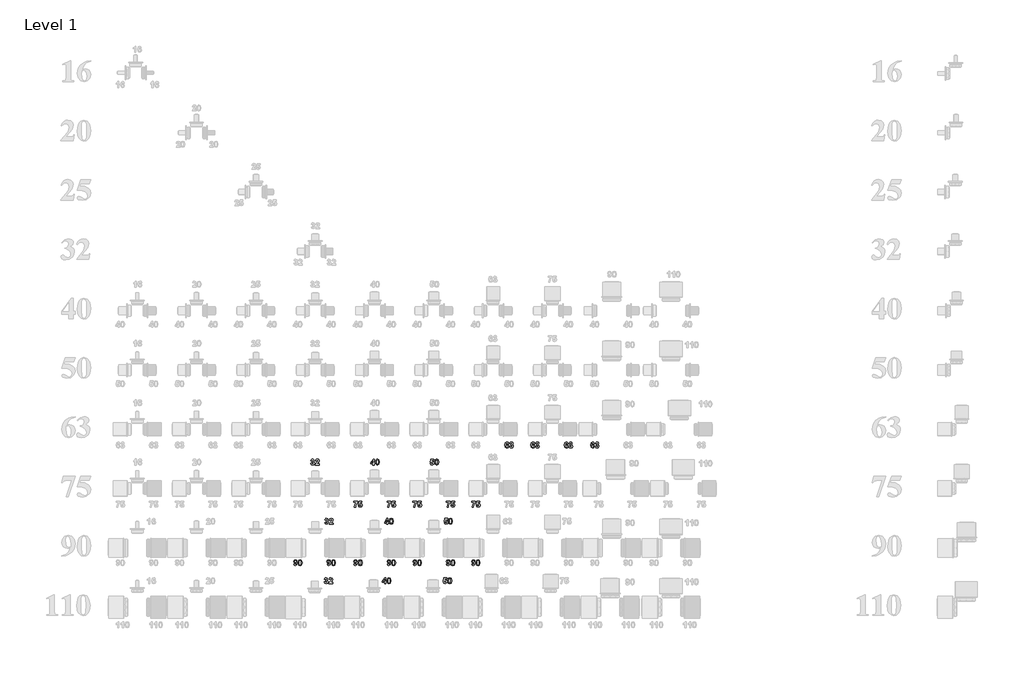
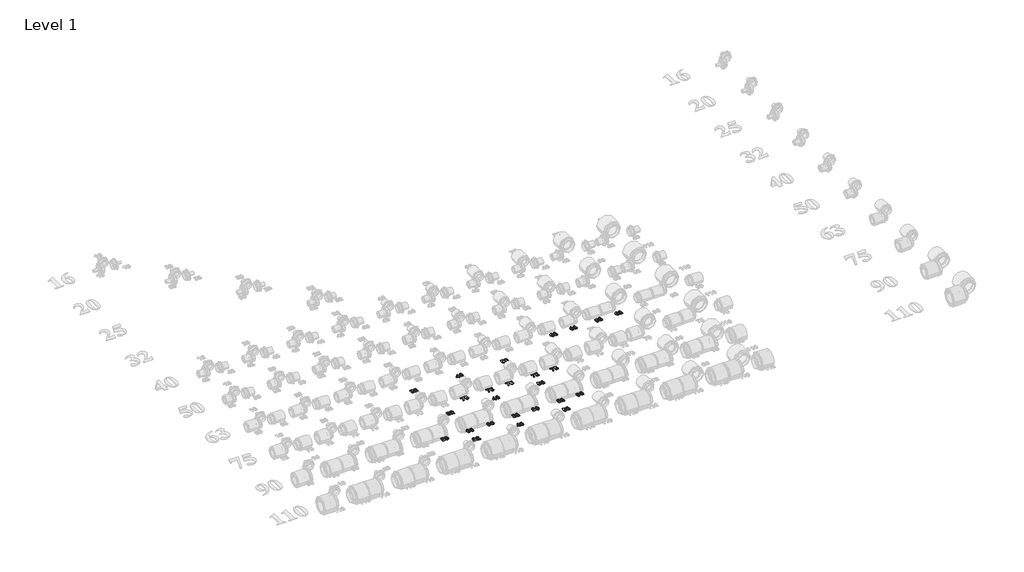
# One storey, part 22 of 57: 25 proxies.
"""IFC4 building model written with IfcOpenShell, lengths in millimetres."""

from ifc_helpers import new_model, si_unit, frame, origin, place, context, project, spatial, polyline, outline, extrude, element, save

model = new_model("IFC4")

# Units and contexts
model_context = context("Model", 3, world=origin())
ifc_project = project(units=[si_unit("LENGTHUNIT", "METRE", prefix="MILLI")], contexts=[model_context])

# Site, building, storey
site = spatial("IfcSite", under=ifc_project)
building = spatial("IfcBuilding", under=site)
storey = spatial("IfcBuildingStorey", under=building, Name="Level 1", Elevation=27.3876384)

# Proxies
placement = place(None, origin())
element("IfcBuildingElementProxy", 1, Name="30mm Arial", ObjectType="30mm Arial", at=placement, inside=storey, context=model_context, shape_type="SweptSolid", body=[
    extrude(outline(polyline([(15144.2929, 16775.0640351), (15138.4628463, 16774.4415554), (15137.430441, 16777.0111819), (15135.2593532, 16777.84242), (15132.2684142, 16776.2292867), (15130.7273974, 16769.4541266), (15136.0564309, 16772.0123663), (15142.2167025, 16769.2795286), (15144.7787378, 16762.2272892), (15142.1597684, 16754.8676055), (15135.42636, 16752.0930161), (15128.1843401, 16755.67607), (15125.3452254, 16767.4196808), (15128.3095952, 16779.4897138), (15136.0108836, 16783.1866359), (15141.514515, 16781.1066428), (15144.2929, 16775.0640351)]), holes=[polyline([(15131.1752792, 16762.3563398), (15132.435421, 16758.7163519), (15135.3124918, 16757.437232), (15137.9086876, 16758.4848198), (15138.9486841, 16761.9236405), (15137.8289798, 16765.5256724), (15135.0316168, 16766.6681504), (15132.2949835, 16765.5750153), (15131.1752792, 16762.3563398)])]), frame((0.0, 0.0, 27.3876384), z_axis=(0.0, 0.0, 1.0), x_axis=(1.0, 0.0, 0.0)), (0.0, 0.0, 1.0), 2.0),
    extrude(outline(polyline([(15148.6654403, 16761.1341541), (15154.495494, 16761.8097723), (15155.8087743, 16758.560732), (15158.3973789, 16757.437232), (15161.1529903, 16758.7239431), (15162.268899, 16762.1893331), (15161.2478804, 16765.4611471), (15158.7541661, 16766.6681504), (15156.4388453, 16766.2354511), (15156.9474567, 16771.0406907), (15159.8207319, 16771.9971839), (15160.8113855, 16774.6996567), (15160.071242, 16776.9884083), (15158.1013215, 16777.84242), (15156.025124, 16776.8517664), (15154.9813318, 16773.9557175), (15149.1512781, 16774.8287074), (15150.7568202, 16779.4631446), (15153.7553505, 16782.1921867), (15158.0633654, 16783.1866359), (15164.6069934, 16780.4310246), (15166.6414393, 16775.3297276), (15162.2764902, 16768.8999678), (15166.5123886, 16766.3986622), (15168.0989527, 16761.7034953), (15165.2864072, 16754.9055616), (15158.2835107, 16752.0930161), (15151.698131, 16754.5943217), (15148.6654403, 16761.1341541)])), frame((0.0, 0.0, 27.3876384), z_axis=(0.0, 0.0, 1.0), x_axis=(1.0, 0.0, 0.0)), (0.0, 0.0, 1.0), 2.0),
])
element("IfcBuildingElementProxy", 2, Name="30mm Arial", ObjectType="30mm Arial", at=placement, inside=storey, context=model_context, shape_type="SweptSolid", body=[
    extrude(outline(polyline([(15275.5429, 16775.0640351), (15269.7128463, 16774.4415554), (15268.680441, 16777.0111819), (15266.5093532, 16777.84242), (15263.5184142, 16776.2292867), (15261.9773974, 16769.4541266), (15267.3064309, 16772.0123663), (15273.4667025, 16769.2795286), (15276.0287378, 16762.2272892), (15273.4097684, 16754.8676055), (15266.67636, 16752.0930161), (15259.4343401, 16755.67607), (15256.5952254, 16767.4196808), (15259.5595952, 16779.4897138), (15267.2608836, 16783.1866359), (15272.764515, 16781.1066428), (15275.5429, 16775.0640351)]), holes=[polyline([(15262.4252792, 16762.3563398), (15263.685421, 16758.7163519), (15266.5624918, 16757.437232), (15269.1586876, 16758.4848198), (15270.1986841, 16761.9236405), (15269.0789798, 16765.5256724), (15266.2816168, 16766.6681504), (15263.5449835, 16765.5750153), (15262.4252792, 16762.3563398)])]), frame((0.0, 0.0, 27.3876384), z_axis=(0.0, 0.0, 1.0), x_axis=(1.0, 0.0, 0.0)), (0.0, 0.0, 1.0), 2.0),
    extrude(outline(polyline([(15279.9154403, 16761.1341541), (15285.745494, 16761.8097723), (15287.0587743, 16758.560732), (15289.6473789, 16757.437232), (15292.4029903, 16758.7239431), (15293.518899, 16762.1893331), (15292.4978804, 16765.4611471), (15290.0041661, 16766.6681504), (15287.6888453, 16766.2354511), (15288.1974567, 16771.0406907), (15291.0707319, 16771.9971839), (15292.0613855, 16774.6996567), (15291.321242, 16776.9884083), (15289.3513215, 16777.84242), (15287.275124, 16776.8517664), (15286.2313318, 16773.9557175), (15280.4012781, 16774.8287074), (15282.0068202, 16779.4631446), (15285.0053505, 16782.1921867), (15289.3133654, 16783.1866359), (15295.8569934, 16780.4310246), (15297.8914393, 16775.3297276), (15293.5264902, 16768.8999678), (15297.7623886, 16766.3986622), (15299.3489527, 16761.7034953), (15296.5364072, 16754.9055616), (15289.5335107, 16752.0930161), (15282.948131, 16754.5943217), (15279.9154403, 16761.1341541)])), frame((0.0, 0.0, 27.3876384), z_axis=(0.0, 0.0, 1.0), x_axis=(1.0, 0.0, 0.0)), (0.0, 0.0, 1.0), 2.0),
])
element("IfcBuildingElementProxy", 3, Name="30mm Arial", ObjectType="30mm Arial", at=placement, inside=storey, context=model_context, shape_type="SweptSolid", body=[
    extrude(outline(polyline([(15444.2929, 16775.0640351), (15438.4628463, 16774.4415554), (15437.430441, 16777.0111819), (15435.2593532, 16777.84242), (15432.2684142, 16776.2292867), (15430.7273974, 16769.4541266), (15436.0564309, 16772.0123663), (15442.2167025, 16769.2795286), (15444.7787378, 16762.2272892), (15442.1597684, 16754.8676055), (15435.42636, 16752.0930161), (15428.1843401, 16755.67607), (15425.3452254, 16767.4196808), (15428.3095952, 16779.4897138), (15436.0108836, 16783.1866359), (15441.514515, 16781.1066428), (15444.2929, 16775.0640351)]), holes=[polyline([(15431.1752792, 16762.3563398), (15432.435421, 16758.7163519), (15435.3124918, 16757.437232), (15437.9086876, 16758.4848198), (15438.9486841, 16761.9236405), (15437.8289798, 16765.5256724), (15435.0316168, 16766.6681504), (15432.2949835, 16765.5750153), (15431.1752792, 16762.3563398)])]), frame((0.0, 0.0, 27.3876384), z_axis=(0.0, 0.0, 1.0), x_axis=(1.0, 0.0, 0.0)), (0.0, 0.0, 1.0), 2.0),
    extrude(outline(polyline([(15448.6654403, 16761.1341541), (15454.495494, 16761.8097723), (15455.8087743, 16758.560732), (15458.3973789, 16757.437232), (15461.1529903, 16758.7239431), (15462.268899, 16762.1893331), (15461.2478804, 16765.4611471), (15458.7541661, 16766.6681504), (15456.4388453, 16766.2354511), (15456.9474567, 16771.0406907), (15459.8207319, 16771.9971839), (15460.8113855, 16774.6996567), (15460.071242, 16776.9884083), (15458.1013215, 16777.84242), (15456.025124, 16776.8517664), (15454.9813318, 16773.9557175), (15449.1512781, 16774.8287074), (15450.7568202, 16779.4631446), (15453.7553505, 16782.1921867), (15458.0633654, 16783.1866359), (15464.6069934, 16780.4310246), (15466.6414393, 16775.3297276), (15462.2764902, 16768.8999678), (15466.5123886, 16766.3986622), (15468.0989527, 16761.7034953), (15465.2864072, 16754.9055616), (15458.2835107, 16752.0930161), (15451.698131, 16754.5943217), (15448.6654403, 16761.1341541)])), frame((0.0, 0.0, 27.3876384), z_axis=(0.0, 0.0, 1.0), x_axis=(1.0, 0.0, 0.0)), (0.0, 0.0, 1.0), 2.0),
])
element("IfcBuildingElementProxy", 4, Name="30mm Arial", ObjectType="30mm Arial", at=placement, inside=storey, context=model_context, shape_type="SweptSolid", body=[
    extrude(outline(polyline([(15577.5429, 16775.0640351), (15571.7128463, 16774.4415554), (15570.680441, 16777.0111819), (15568.5093532, 16777.84242), (15565.5184142, 16776.2292867), (15563.9773974, 16769.4541266), (15569.3064309, 16772.0123663), (15575.4667025, 16769.2795286), (15578.0287378, 16762.2272892), (15575.4097684, 16754.8676055), (15568.67636, 16752.0930161), (15561.4343401, 16755.67607), (15558.5952254, 16767.4196808), (15561.5595952, 16779.4897138), (15569.2608836, 16783.1866359), (15574.764515, 16781.1066428), (15577.5429, 16775.0640351)]), holes=[polyline([(15564.4252792, 16762.3563398), (15565.685421, 16758.7163519), (15568.5624918, 16757.437232), (15571.1586876, 16758.4848198), (15572.1986841, 16761.9236405), (15571.0789798, 16765.5256724), (15568.2816168, 16766.6681504), (15565.5449835, 16765.5750153), (15564.4252792, 16762.3563398)])]), frame((0.0, 0.0, 27.3876384), z_axis=(0.0, 0.0, 1.0), x_axis=(1.0, 0.0, 0.0)), (0.0, 0.0, 1.0), 2.0),
    extrude(outline(polyline([(15581.9154403, 16761.1341541), (15587.745494, 16761.8097723), (15589.0587743, 16758.560732), (15591.6473789, 16757.437232), (15594.4029903, 16758.7239431), (15595.518899, 16762.1893331), (15594.4978804, 16765.4611471), (15592.0041661, 16766.6681504), (15589.6888453, 16766.2354511), (15590.1974567, 16771.0406907), (15593.0707319, 16771.9971839), (15594.0613855, 16774.6996567), (15593.321242, 16776.9884083), (15591.3513215, 16777.84242), (15589.275124, 16776.8517664), (15588.2313318, 16773.9557175), (15582.4012781, 16774.8287074), (15584.0068202, 16779.4631446), (15587.0053505, 16782.1921867), (15591.3133654, 16783.1866359), (15597.8569934, 16780.4310246), (15599.8914393, 16775.3297276), (15595.5264902, 16768.8999678), (15599.7623886, 16766.3986622), (15601.3489527, 16761.7034953), (15598.5364072, 16754.9055616), (15591.5335107, 16752.0930161), (15584.948131, 16754.5943217), (15581.9154403, 16761.1341541)])), frame((0.0, 0.0, 27.3876384), z_axis=(0.0, 0.0, 1.0), x_axis=(1.0, 0.0, 0.0)), (0.0, 0.0, 1.0), 2.0),
])
element("IfcBuildingElementProxy", 5, Name="30mm Arial", ObjectType="30mm Arial", at=placement, inside=storey, context=model_context, shape_type="SweptSolid", body=[
    extrude(outline(polyline([(14143.5234103, 16674.9527947), (14149.353464, 16675.6284129), (14150.6667443, 16672.3793725), (14153.2553489, 16671.2558726), (14156.0109602, 16672.5425837), (14157.1268689, 16676.0079737), (14156.1058504, 16679.2797877), (14153.612136, 16680.486791), (14151.2968152, 16680.0540917), (14151.8054267, 16684.8593313), (14154.6787018, 16685.8158244), (14155.6693555, 16688.5182973), (14154.929212, 16690.8070488), (14152.9592915, 16691.6610606), (14150.8830939, 16690.6704069), (14149.8393018, 16687.7743581), (14144.0092481, 16688.6473479), (14145.6147902, 16693.2817852), (14148.6133204, 16696.0108272), (14152.9213354, 16697.0052765), (14159.4649634, 16694.2496652), (14161.4994092, 16689.1483682), (14157.1344601, 16682.7186084), (14161.3703585, 16680.2173028), (14162.9569226, 16675.5221359), (14160.1443772, 16668.7242021), (14153.1414806, 16665.9116567), (14146.556101, 16668.4129623), (14143.5234103, 16674.9527947)])), frame((0.0, 0.0, 27.3876384), z_axis=(0.0, 0.0, 1.0), x_axis=(1.0, 0.0, 0.0)), (0.0, 0.0, 1.0), 2.0),
    extrude(outline(polyline([(14186.2771375, 16672.2275482), (14186.2771375, 16666.3974945), (14166.8436251, 16666.3974945), (14168.703473, 16672.1174756), (14174.8144017, 16679.2873789), (14179.3235838, 16684.1761218), (14180.4470838, 16687.6832635), (14179.5019774, 16690.6324508), (14176.8943948, 16691.6610606), (14174.2830166, 16690.6476333), (14173.1595166, 16687.2885203), (14167.3294629, 16687.8199054), (14170.4570438, 16694.8683493), (14177.0234455, 16697.0052765), (14183.8099924, 16694.6102479), (14186.2771375, 16688.6549391), (14185.6015193, 16684.7986015), (14183.4607964, 16680.9650376), (14179.8359909, 16677.1390648), (14176.5072428, 16673.8217035), (14175.4141077, 16672.2275482), (14186.2771375, 16672.2275482)])), frame((0.0, 0.0, 27.3876384), z_axis=(0.0, 0.0, 1.0), x_axis=(1.0, 0.0, 0.0)), (0.0, 0.0, 1.0), 2.0),
])
element("IfcBuildingElementProxy", 6, Name="30mm Arial", ObjectType="30mm Arial", at=placement, inside=storey, context=model_context, shape_type="SweptSolid", body=[
    extrude(outline(polyline([(14360.5952254, 16476.8707444), (14360.5952254, 16482.7007981), (14380.0287378, 16482.7007981), (14380.0287378, 16478.3282578), (14375.022331, 16471.3595218), (14371.1394242, 16461.7110865), (14369.8261438, 16452.5788539), (14363.9960901, 16452.5788539), (14366.6568112, 16465.2903447), (14373.3636504, 16476.8707444), (14360.5952254, 16476.8707444)])), frame((0.0, 0.0, 27.3876384), z_axis=(0.0, 0.0, 1.0), x_axis=(1.0, 0.0, 0.0)), (0.0, 0.0, 1.0), 2.0),
    extrude(outline(polyline([(14383.9154403, 16461.1948838), (14389.2596562, 16461.8097723), (14390.7475345, 16458.6138705), (14393.6018316, 16457.437232), (14396.7256169, 16458.685987), (14398.0047368, 16462.4474344), (14396.8167115, 16465.9773498), (14393.7232911, 16467.1539882), (14389.4570278, 16464.7247992), (14384.4012781, 16465.4763295), (14387.8021428, 16482.7007981), (14402.3772771, 16482.7007981), (14402.3772771, 16476.8707444), (14392.5162878, 16476.8707444), (14391.3396493, 16471.3063832), (14395.0973011, 16472.4982041), (14401.2917332, 16469.7387972), (14403.8347905, 16462.5764851), (14401.7168413, 16456.0252659), (14393.6929262, 16452.0930161), (14387.0088607, 16454.5601612), (14383.9154403, 16461.1948838)])), frame((0.0, 0.0, 27.3876384), z_axis=(0.0, 0.0, 1.0), x_axis=(1.0, 0.0, 0.0)), (0.0, 0.0, 1.0), 2.0),
])
element("IfcBuildingElementProxy", 7, Name="30mm Arial", ObjectType="30mm Arial", at=placement, inside=storey, context=model_context, shape_type="SweptSolid", body=[
    extrude(outline(polyline([(14529.3452254, 16476.8707444), (14529.3452254, 16482.7007981), (14548.7787378, 16482.7007981), (14548.7787378, 16478.3282578), (14543.772331, 16471.3595218), (14539.8894242, 16461.7110865), (14538.5761438, 16452.5788539), (14532.7460901, 16452.5788539), (14535.4068112, 16465.2903447), (14542.1136504, 16476.8707444), (14529.3452254, 16476.8707444)])), frame((0.0, 0.0, 27.3876384), z_axis=(0.0, 0.0, 1.0), x_axis=(1.0, 0.0, 0.0)), (0.0, 0.0, 1.0), 2.0),
    extrude(outline(polyline([(14552.6654403, 16461.1948838), (14558.0096562, 16461.8097723), (14559.4975345, 16458.6138705), (14562.3518316, 16457.437232), (14565.4756169, 16458.685987), (14566.7547368, 16462.4474344), (14565.5667115, 16465.9773498), (14562.4732911, 16467.1539882), (14558.2070278, 16464.7247992), (14553.1512781, 16465.4763295), (14556.5521428, 16482.7007981), (14571.1272771, 16482.7007981), (14571.1272771, 16476.8707444), (14561.2662878, 16476.8707444), (14560.0896493, 16471.3063832), (14563.8473011, 16472.4982041), (14570.0417332, 16469.7387972), (14572.5847905, 16462.5764851), (14570.4668413, 16456.0252659), (14562.4429262, 16452.0930161), (14555.7588607, 16454.5601612), (14552.6654403, 16461.1948838)])), frame((0.0, 0.0, 27.3876384), z_axis=(0.0, 0.0, 1.0), x_axis=(1.0, 0.0, 0.0)), (0.0, 0.0, 1.0), 2.0),
])
element("IfcBuildingElementProxy", 8, Name="30mm Arial", ObjectType="30mm Arial", at=placement, inside=storey, context=model_context, shape_type="SweptSolid", body=[
    extrude(outline(polyline([(14458.2118421, 16666.3974945), (14458.2118421, 16672.713386), (14446.5517346, 16672.713386), (14446.5517346, 16677.5489905), (14458.9861461, 16696.5194387), (14464.0418958, 16696.5194387), (14464.0418958, 16677.5717641), (14467.9285983, 16677.5717641), (14467.9285983, 16672.713386), (14464.0418958, 16672.713386), (14464.0418958, 16666.3974945), (14458.2118421, 16666.3974945)]), holes=[polyline([(14458.2118421, 16677.5717641), (14458.2118421, 16687.5162568), (14451.6985789, 16677.5717641), (14458.2118421, 16677.5717641)])]), frame((0.0, 0.0, 27.3876384), z_axis=(0.0, 0.0, 1.0), x_axis=(1.0, 0.0, 0.0)), (0.0, 0.0, 1.0), 2.0),
    extrude(outline(polyline([(14480.5603813, 16697.0052765), (14487.3545194, 16693.8473307), (14490.2771375, 16681.4508754), (14487.339337, 16669.0240552), (14480.5603813, 16665.9116567), (14473.5195287, 16669.3277038), (14470.8436251, 16681.5116051), (14473.7814256, 16693.892878), (14480.5603813, 16697.0052765)]), holes=[polyline([(14480.5603813, 16691.6610606), (14478.6170301, 16691.0196029), (14477.2961585, 16688.7156689), (14476.6736788, 16681.4508754), (14477.2278376, 16674.4327964), (14478.6284169, 16671.8897391), (14480.5603813, 16671.2558726), (14482.5037325, 16671.8973303), (14483.8246041, 16674.2012643), (14484.4470838, 16681.4508754), (14483.892925, 16688.4651587), (14482.4923457, 16691.0196029), (14480.5603813, 16691.6610606)])]), frame((0.0, 0.0, 27.3876384), z_axis=(0.0, 0.0, 1.0), x_axis=(1.0, 0.0, 0.0)), (0.0, 0.0, 1.0), 2.0),
])
element("IfcBuildingElementProxy", 9, Name="30mm Arial", ObjectType="30mm Arial", at=placement, inside=storey, context=model_context, shape_type="SweptSolid", body=[
    extrude(outline(polyline([(14660.5952254, 16476.8707444), (14660.5952254, 16482.7007981), (14680.0287378, 16482.7007981), (14680.0287378, 16478.3282578), (14675.022331, 16471.3595218), (14671.1394242, 16461.7110865), (14669.8261438, 16452.5788539), (14663.9960901, 16452.5788539), (14666.6568112, 16465.2903447), (14673.3636504, 16476.8707444), (14660.5952254, 16476.8707444)])), frame((0.0, 0.0, 27.3876384), z_axis=(0.0, 0.0, 1.0), x_axis=(1.0, 0.0, 0.0)), (0.0, 0.0, 1.0), 2.0),
    extrude(outline(polyline([(14683.9154403, 16461.1948838), (14689.2596562, 16461.8097723), (14690.7475345, 16458.6138705), (14693.6018316, 16457.437232), (14696.7256169, 16458.685987), (14698.0047368, 16462.4474344), (14696.8167115, 16465.9773498), (14693.7232911, 16467.1539882), (14689.4570278, 16464.7247992), (14684.4012781, 16465.4763295), (14687.8021428, 16482.7007981), (14702.3772771, 16482.7007981), (14702.3772771, 16476.8707444), (14692.5162878, 16476.8707444), (14691.3396493, 16471.3063832), (14695.0973011, 16472.4982041), (14701.2917332, 16469.7387972), (14703.8347905, 16462.5764851), (14701.7168413, 16456.0252659), (14693.6929262, 16452.0930161), (14687.0088607, 16454.5601612), (14683.9154403, 16461.1948838)])), frame((0.0, 0.0, 27.3876384), z_axis=(0.0, 0.0, 1.0), x_axis=(1.0, 0.0, 0.0)), (0.0, 0.0, 1.0), 2.0),
])
element("IfcBuildingElementProxy", 10, Name="30mm Arial", ObjectType="30mm Arial", at=placement, inside=storey, context=model_context, shape_type="SweptSolid", body=[
    extrude(outline(polyline([(14829.3452254, 16476.8707444), (14829.3452254, 16482.7007981), (14848.7787378, 16482.7007981), (14848.7787378, 16478.3282578), (14843.772331, 16471.3595218), (14839.8894242, 16461.7110865), (14838.5761438, 16452.5788539), (14832.7460901, 16452.5788539), (14835.4068112, 16465.2903447), (14842.1136504, 16476.8707444), (14829.3452254, 16476.8707444)])), frame((0.0, 0.0, 27.3876384), z_axis=(0.0, 0.0, 1.0), x_axis=(1.0, 0.0, 0.0)), (0.0, 0.0, 1.0), 2.0),
    extrude(outline(polyline([(14852.6654403, 16461.1948838), (14858.0096562, 16461.8097723), (14859.4975345, 16458.6138705), (14862.3518316, 16457.437232), (14865.4756169, 16458.685987), (14866.7547368, 16462.4474344), (14865.5667115, 16465.9773498), (14862.4732911, 16467.1539882), (14858.2070278, 16464.7247992), (14853.1512781, 16465.4763295), (14856.5521428, 16482.7007981), (14871.1272771, 16482.7007981), (14871.1272771, 16476.8707444), (14861.2662878, 16476.8707444), (14860.0896493, 16471.3063832), (14863.8473011, 16472.4982041), (14870.0417332, 16469.7387972), (14872.5847905, 16462.5764851), (14870.4668413, 16456.0252659), (14862.4429262, 16452.0930161), (14855.7588607, 16454.5601612), (14852.6654403, 16461.1948838)])), frame((0.0, 0.0, 27.3876384), z_axis=(0.0, 0.0, 1.0), x_axis=(1.0, 0.0, 0.0)), (0.0, 0.0, 1.0), 2.0),
])
element("IfcBuildingElementProxy", 11, Name="30mm Arial", ObjectType="30mm Arial", at=placement, inside=storey, context=model_context, shape_type="SweptSolid", body=[
    extrude(outline(polyline([(14747.5234103, 16675.0135244), (14752.8676262, 16675.6284129), (14754.3555044, 16672.432511), (14757.2098016, 16671.2558726), (14760.3335869, 16672.5046276), (14761.6127067, 16676.266075), (14760.4246815, 16679.7959903), (14757.331261, 16680.9726288), (14753.0649978, 16678.5434397), (14748.0092481, 16679.2949701), (14751.4101127, 16696.5194387), (14765.985247, 16696.5194387), (14765.985247, 16690.689385), (14756.1242577, 16690.689385), (14754.9476193, 16685.1250238), (14758.7052711, 16686.3168447), (14764.8997032, 16683.5574377), (14767.4427604, 16676.3951257), (14765.3248112, 16669.8439065), (14757.3008962, 16665.9116567), (14750.6168307, 16668.3788018), (14747.5234103, 16675.0135244)])), frame((0.0, 0.0, 27.3876384), z_axis=(0.0, 0.0, 1.0), x_axis=(1.0, 0.0, 0.0)), (0.0, 0.0, 1.0), 2.0),
    extrude(outline(polyline([(14780.5603813, 16697.0052765), (14787.3545194, 16693.8473307), (14790.2771375, 16681.4508754), (14787.339337, 16669.0240552), (14780.5603813, 16665.9116567), (14773.5195287, 16669.3277038), (14770.8436251, 16681.5116051), (14773.7814256, 16693.892878), (14780.5603813, 16697.0052765)]), holes=[polyline([(14780.5603813, 16691.6610606), (14778.6170301, 16691.0196029), (14777.2961585, 16688.7156689), (14776.6736788, 16681.4508754), (14777.2278376, 16674.4327964), (14778.6284169, 16671.8897391), (14780.5603813, 16671.2558726), (14782.5037325, 16671.8973303), (14783.8246041, 16674.2012643), (14784.4470838, 16681.4508754), (14783.892925, 16688.4651587), (14782.4923457, 16691.0196029), (14780.5603813, 16691.6610606)])]), frame((0.0, 0.0, 27.3876384), z_axis=(0.0, 0.0, 1.0), x_axis=(1.0, 0.0, 0.0)), (0.0, 0.0, 1.0), 2.0),
])
element("IfcBuildingElementProxy", 12, Name="30mm Arial", ObjectType="30mm Arial", at=placement, inside=storey, context=model_context, shape_type="SweptSolid", body=[
    extrude(outline(polyline([(14956.5952254, 16476.8707444), (14956.5952254, 16482.7007981), (14976.0287378, 16482.7007981), (14976.0287378, 16478.3282578), (14971.022331, 16471.3595218), (14967.1394242, 16461.7110865), (14965.8261438, 16452.5788539), (14959.9960901, 16452.5788539), (14962.6568112, 16465.2903447), (14969.3636504, 16476.8707444), (14956.5952254, 16476.8707444)])), frame((0.0, 0.0, 27.3876384), z_axis=(0.0, 0.0, 1.0), x_axis=(1.0, 0.0, 0.0)), (0.0, 0.0, 1.0), 2.0),
    extrude(outline(polyline([(14979.9154403, 16461.1948838), (14985.2596562, 16461.8097723), (14986.7475345, 16458.6138705), (14989.6018316, 16457.437232), (14992.7256169, 16458.685987), (14994.0047368, 16462.4474344), (14992.8167115, 16465.9773498), (14989.7232911, 16467.1539882), (14985.4570278, 16464.7247992), (14980.4012781, 16465.4763295), (14983.8021428, 16482.7007981), (14998.3772771, 16482.7007981), (14998.3772771, 16476.8707444), (14988.5162878, 16476.8707444), (14987.3396493, 16471.3063832), (14991.0973011, 16472.4982041), (14997.2917332, 16469.7387972), (14999.8347905, 16462.5764851), (14997.7168413, 16456.0252659), (14989.6929262, 16452.0930161), (14983.0088607, 16454.5601612), (14979.9154403, 16461.1948838)])), frame((0.0, 0.0, 27.3876384), z_axis=(0.0, 0.0, 1.0), x_axis=(1.0, 0.0, 0.0)), (0.0, 0.0, 1.0), 2.0),
])
element("IfcBuildingElementProxy", 13, Name="30mm Arial", ObjectType="30mm Arial", at=placement, inside=storey, context=model_context, shape_type="SweptSolid", body=[
    extrude(outline(polyline([(14057.0810633, 16165.215617), (14062.911117, 16165.8380967), (14063.9473179, 16163.2722658), (14066.1601573, 16162.437232), (14069.105549, 16164.0503654), (14070.6617483, 16170.8027518), (14065.2492114, 16168.2672857), (14059.1572608, 16170.9887366), (14056.5952254, 16178.0751365), (14059.2255817, 16185.4044553), (14065.9248296, 16188.1866359), (14073.1896231, 16184.6073777), (14076.0287378, 16172.8296064), (14073.0605725, 16160.7861426), (14065.3327148, 16157.0930161), (14059.7911273, 16159.1274619), (14057.0810633, 16165.215617)]), holes=[polyline([(14070.1986841, 16177.9384946), (14068.9461335, 16181.555709), (14066.0538803, 16182.84242), (14063.4576845, 16181.787241), (14062.4252792, 16178.3332379), (14063.5487791, 16174.7539796), (14066.3499377, 16173.6115016), (14069.086571, 16174.7084323), (14070.1986841, 16177.9384946)])]), frame((0.0, 0.0, 27.3876384), z_axis=(0.0, 0.0, 1.0), x_axis=(1.0, 0.0, 0.0)), (0.0, 0.0, 1.0), 2.0),
    extrude(outline(polyline([(14089.6321965, 16188.1866359), (14096.4263346, 16185.0286902), (14099.3489527, 16172.6322348), (14096.4111522, 16160.2054146), (14089.6321965, 16157.0930161), (14082.5913439, 16160.5090632), (14079.9154403, 16172.6929645), (14082.8532408, 16185.0742375), (14089.6321965, 16188.1866359)]), holes=[polyline([(14089.6321965, 16182.84242), (14087.6888453, 16182.2009623), (14086.3679737, 16179.8970283), (14085.745494, 16172.6322348), (14086.2996528, 16165.6141558), (14087.7002321, 16163.0710985), (14089.6321965, 16162.437232), (14091.5755477, 16163.0786898), (14092.8964193, 16165.3826237), (14093.518899, 16172.6322348), (14092.9647402, 16179.6465182), (14091.5641609, 16182.2009623), (14089.6321965, 16182.84242)])]), frame((0.0, 0.0, 27.3876384), z_axis=(0.0, 0.0, 1.0), x_axis=(1.0, 0.0, 0.0)), (0.0, 0.0, 1.0), 2.0),
])
element("IfcBuildingElementProxy", 14, Name="30mm Arial", ObjectType="30mm Arial", at=placement, inside=storey, context=model_context, shape_type="SweptSolid", body=[
    extrude(outline(polyline([(14225.8310633, 16165.215617), (14231.661117, 16165.8380967), (14232.6973179, 16163.2722658), (14234.9101573, 16162.437232), (14237.855549, 16164.0503654), (14239.4117483, 16170.8027518), (14233.9992114, 16168.2672857), (14227.9072608, 16170.9887366), (14225.3452254, 16178.0751365), (14227.9755817, 16185.4044553), (14234.6748296, 16188.1866359), (14241.9396231, 16184.6073777), (14244.7787378, 16172.8296064), (14241.8105725, 16160.7861426), (14234.0827148, 16157.0930161), (14228.5411273, 16159.1274619), (14225.8310633, 16165.215617)]), holes=[polyline([(14238.9486841, 16177.9384946), (14237.6961335, 16181.555709), (14234.8038803, 16182.84242), (14232.2076845, 16181.787241), (14231.1752792, 16178.3332379), (14232.2987791, 16174.7539796), (14235.0999377, 16173.6115016), (14237.836571, 16174.7084323), (14238.9486841, 16177.9384946)])]), frame((0.0, 0.0, 27.3876384), z_axis=(0.0, 0.0, 1.0), x_axis=(1.0, 0.0, 0.0)), (0.0, 0.0, 1.0), 2.0),
    extrude(outline(polyline([(14258.3821965, 16188.1866359), (14265.1763346, 16185.0286902), (14268.0989527, 16172.6322348), (14265.1611522, 16160.2054146), (14258.3821965, 16157.0930161), (14251.3413439, 16160.5090632), (14248.6654403, 16172.6929645), (14251.6032408, 16185.0742375), (14258.3821965, 16188.1866359)]), holes=[polyline([(14258.3821965, 16182.84242), (14256.4388453, 16182.2009623), (14255.1179737, 16179.8970283), (14254.495494, 16172.6322348), (14255.0496528, 16165.6141558), (14256.4502321, 16163.0710985), (14258.3821965, 16162.437232), (14260.3255477, 16163.0786898), (14261.6464193, 16165.3826237), (14262.268899, 16172.6322348), (14261.7147402, 16179.6465182), (14260.3141609, 16182.2009623), (14258.3821965, 16182.84242)])]), frame((0.0, 0.0, 27.3876384), z_axis=(0.0, 0.0, 1.0), x_axis=(1.0, 0.0, 0.0)), (0.0, 0.0, 1.0), 2.0),
])
element("IfcBuildingElementProxy", 15, Name="30mm Arial", ObjectType="30mm Arial", at=placement, inside=storey, context=model_context, shape_type="SweptSolid", body=[
    extrude(outline(polyline([(14213.5234103, 16374.9527947), (14219.353464, 16375.6284129), (14220.6667443, 16372.3793725), (14223.2553489, 16371.2558726), (14226.0109602, 16372.5425837), (14227.1268689, 16376.0079737), (14226.1058504, 16379.2797877), (14223.612136, 16380.486791), (14221.2968152, 16380.0540917), (14221.8054267, 16384.8593313), (14224.6787018, 16385.8158244), (14225.6693555, 16388.5182973), (14224.929212, 16390.8070488), (14222.9592915, 16391.6610606), (14220.8830939, 16390.6704069), (14219.8393018, 16387.7743581), (14214.0092481, 16388.6473479), (14215.6147902, 16393.2817852), (14218.6133204, 16396.0108272), (14222.9213354, 16397.0052765), (14229.4649634, 16394.2496652), (14231.4994092, 16389.1483682), (14227.1344601, 16382.7186084), (14231.3703585, 16380.2173028), (14232.9569226, 16375.5221359), (14230.1443772, 16368.7242021), (14223.1414806, 16365.9116567), (14216.556101, 16368.4129623), (14213.5234103, 16374.9527947)])), frame((0.0, 0.0, 27.3876384), z_axis=(0.0, 0.0, 1.0), x_axis=(1.0, 0.0, 0.0)), (0.0, 0.0, 1.0), 2.0),
    extrude(outline(polyline([(14256.2771375, 16372.2275482), (14256.2771375, 16366.3974945), (14236.8436251, 16366.3974945), (14238.703473, 16372.1174756), (14244.8144017, 16379.2873789), (14249.3235838, 16384.1761218), (14250.4470838, 16387.6832635), (14249.5019774, 16390.6324508), (14246.8943948, 16391.6610606), (14244.2830166, 16390.6476333), (14243.1595166, 16387.2885203), (14237.3294629, 16387.8199054), (14240.4570438, 16394.8683493), (14247.0234455, 16397.0052765), (14253.8099924, 16394.6102479), (14256.2771375, 16388.6549391), (14255.6015193, 16384.7986015), (14253.4607964, 16380.9650376), (14249.8359909, 16377.1390648), (14246.5072428, 16373.8217035), (14245.4141077, 16372.2275482), (14256.2771375, 16372.2275482)])), frame((0.0, 0.0, 27.3876384), z_axis=(0.0, 0.0, 1.0), x_axis=(1.0, 0.0, 0.0)), (0.0, 0.0, 1.0), 2.0),
])
element("IfcBuildingElementProxy", 16, Name="30mm Arial", ObjectType="30mm Arial", at=placement, inside=storey, context=model_context, shape_type="SweptSolid", body=[
    extrude(outline(polyline([(14361.0810633, 16165.215617), (14366.911117, 16165.8380967), (14367.9473179, 16163.2722658), (14370.1601573, 16162.437232), (14373.105549, 16164.0503654), (14374.6617483, 16170.8027518), (14369.2492114, 16168.2672857), (14363.1572608, 16170.9887366), (14360.5952254, 16178.0751365), (14363.2255817, 16185.4044553), (14369.9248296, 16188.1866359), (14377.1896231, 16184.6073777), (14380.0287378, 16172.8296064), (14377.0605725, 16160.7861426), (14369.3327148, 16157.0930161), (14363.7911273, 16159.1274619), (14361.0810633, 16165.215617)]), holes=[polyline([(14374.1986841, 16177.9384946), (14372.9461335, 16181.555709), (14370.0538803, 16182.84242), (14367.4576845, 16181.787241), (14366.4252792, 16178.3332379), (14367.5487791, 16174.7539796), (14370.3499377, 16173.6115016), (14373.086571, 16174.7084323), (14374.1986841, 16177.9384946)])]), frame((0.0, 0.0, 27.3876384), z_axis=(0.0, 0.0, 1.0), x_axis=(1.0, 0.0, 0.0)), (0.0, 0.0, 1.0), 2.0),
    extrude(outline(polyline([(14393.6321965, 16188.1866359), (14400.4263346, 16185.0286902), (14403.3489527, 16172.6322348), (14400.4111522, 16160.2054146), (14393.6321965, 16157.0930161), (14386.5913439, 16160.5090632), (14383.9154403, 16172.6929645), (14386.8532408, 16185.0742375), (14393.6321965, 16188.1866359)]), holes=[polyline([(14393.6321965, 16182.84242), (14391.6888453, 16182.2009623), (14390.3679737, 16179.8970283), (14389.745494, 16172.6322348), (14390.2996528, 16165.6141558), (14391.7002321, 16163.0710985), (14393.6321965, 16162.437232), (14395.5755477, 16163.0786898), (14396.8964193, 16165.3826237), (14397.518899, 16172.6322348), (14396.9647402, 16179.6465182), (14395.5641609, 16182.2009623), (14393.6321965, 16182.84242)])]), frame((0.0, 0.0, 27.3876384), z_axis=(0.0, 0.0, 1.0), x_axis=(1.0, 0.0, 0.0)), (0.0, 0.0, 1.0), 2.0),
])
element("IfcBuildingElementProxy", 17, Name="30mm Arial", ObjectType="30mm Arial", at=placement, inside=storey, context=model_context, shape_type="SweptSolid", body=[
    extrude(outline(polyline([(14529.8310633, 16165.215617), (14535.661117, 16165.8380967), (14536.6973179, 16163.2722658), (14538.9101573, 16162.437232), (14541.855549, 16164.0503654), (14543.4117483, 16170.8027518), (14537.9992114, 16168.2672857), (14531.9072608, 16170.9887366), (14529.3452254, 16178.0751365), (14531.9755817, 16185.4044553), (14538.6748296, 16188.1866359), (14545.9396231, 16184.6073777), (14548.7787378, 16172.8296064), (14545.8105725, 16160.7861426), (14538.0827148, 16157.0930161), (14532.5411273, 16159.1274619), (14529.8310633, 16165.215617)]), holes=[polyline([(14542.9486841, 16177.9384946), (14541.6961335, 16181.555709), (14538.8038803, 16182.84242), (14536.2076845, 16181.787241), (14535.1752792, 16178.3332379), (14536.2987791, 16174.7539796), (14539.0999377, 16173.6115016), (14541.836571, 16174.7084323), (14542.9486841, 16177.9384946)])]), frame((0.0, 0.0, 27.3876384), z_axis=(0.0, 0.0, 1.0), x_axis=(1.0, 0.0, 0.0)), (0.0, 0.0, 1.0), 2.0),
    extrude(outline(polyline([(14562.3821965, 16188.1866359), (14569.1763346, 16185.0286902), (14572.0989527, 16172.6322348), (14569.1611522, 16160.2054146), (14562.3821965, 16157.0930161), (14555.3413439, 16160.5090632), (14552.6654403, 16172.6929645), (14555.6032408, 16185.0742375), (14562.3821965, 16188.1866359)]), holes=[polyline([(14562.3821965, 16182.84242), (14560.4388453, 16182.2009623), (14559.1179737, 16179.8970283), (14558.495494, 16172.6322348), (14559.0496528, 16165.6141558), (14560.4502321, 16163.0710985), (14562.3821965, 16162.437232), (14564.3255477, 16163.0786898), (14565.6464193, 16165.3826237), (14566.268899, 16172.6322348), (14565.7147402, 16179.6465182), (14564.3141609, 16182.2009623), (14562.3821965, 16182.84242)])]), frame((0.0, 0.0, 27.3876384), z_axis=(0.0, 0.0, 1.0), x_axis=(1.0, 0.0, 0.0)), (0.0, 0.0, 1.0), 2.0),
])
element("IfcBuildingElementProxy", 18, Name="30mm Arial", ObjectType="30mm Arial", at=placement, inside=storey, context=model_context, shape_type="SweptSolid", body=[
    extrude(outline(polyline([(14528.2118421, 16366.3974945), (14528.2118421, 16372.713386), (14516.5517346, 16372.713386), (14516.5517346, 16377.5489905), (14528.9861461, 16396.5194387), (14534.0418958, 16396.5194387), (14534.0418958, 16377.5717641), (14537.9285983, 16377.5717641), (14537.9285983, 16372.713386), (14534.0418958, 16372.713386), (14534.0418958, 16366.3974945), (14528.2118421, 16366.3974945)]), holes=[polyline([(14528.2118421, 16377.5717641), (14528.2118421, 16387.5162568), (14521.6985789, 16377.5717641), (14528.2118421, 16377.5717641)])]), frame((0.0, 0.0, 27.3876384), z_axis=(0.0, 0.0, 1.0), x_axis=(1.0, 0.0, 0.0)), (0.0, 0.0, 1.0), 2.0),
    extrude(outline(polyline([(14550.5603813, 16397.0052765), (14557.3545194, 16393.8473307), (14560.2771375, 16381.4508754), (14557.339337, 16369.0240552), (14550.5603813, 16365.9116567), (14543.5195287, 16369.3277038), (14540.8436251, 16381.5116051), (14543.7814256, 16393.892878), (14550.5603813, 16397.0052765)]), holes=[polyline([(14550.5603813, 16391.6610606), (14548.6170301, 16391.0196029), (14547.2961585, 16388.7156689), (14546.6736788, 16381.4508754), (14547.2278376, 16374.4327964), (14548.6284169, 16371.8897391), (14550.5603813, 16371.2558726), (14552.5037325, 16371.8973303), (14553.8246041, 16374.2012643), (14554.4470838, 16381.4508754), (14553.892925, 16388.4651587), (14552.4923457, 16391.0196029), (14550.5603813, 16391.6610606)])]), frame((0.0, 0.0, 27.3876384), z_axis=(0.0, 0.0, 1.0), x_axis=(1.0, 0.0, 0.0)), (0.0, 0.0, 1.0), 2.0),
])
element("IfcBuildingElementProxy", 19, Name="30mm Arial", ObjectType="30mm Arial", at=placement, inside=storey, context=model_context, shape_type="SweptSolid", body=[
    extrude(outline(polyline([(14661.0810633, 16165.215617), (14666.911117, 16165.8380967), (14667.9473179, 16163.2722658), (14670.1601573, 16162.437232), (14673.105549, 16164.0503654), (14674.6617483, 16170.8027518), (14669.2492114, 16168.2672857), (14663.1572608, 16170.9887366), (14660.5952254, 16178.0751365), (14663.2255817, 16185.4044553), (14669.9248296, 16188.1866359), (14677.1896231, 16184.6073777), (14680.0287378, 16172.8296064), (14677.0605725, 16160.7861426), (14669.3327148, 16157.0930161), (14663.7911273, 16159.1274619), (14661.0810633, 16165.215617)]), holes=[polyline([(14674.1986841, 16177.9384946), (14672.9461335, 16181.555709), (14670.0538803, 16182.84242), (14667.4576845, 16181.787241), (14666.4252792, 16178.3332379), (14667.5487791, 16174.7539796), (14670.3499377, 16173.6115016), (14673.086571, 16174.7084323), (14674.1986841, 16177.9384946)])]), frame((0.0, 0.0, 27.3876384), z_axis=(0.0, 0.0, 1.0), x_axis=(1.0, 0.0, 0.0)), (0.0, 0.0, 1.0), 2.0),
    extrude(outline(polyline([(14693.6321965, 16188.1866359), (14700.4263346, 16185.0286902), (14703.3489527, 16172.6322348), (14700.4111522, 16160.2054146), (14693.6321965, 16157.0930161), (14686.5913439, 16160.5090632), (14683.9154403, 16172.6929645), (14686.8532408, 16185.0742375), (14693.6321965, 16188.1866359)]), holes=[polyline([(14693.6321965, 16182.84242), (14691.6888453, 16182.2009623), (14690.3679737, 16179.8970283), (14689.745494, 16172.6322348), (14690.2996528, 16165.6141558), (14691.7002321, 16163.0710985), (14693.6321965, 16162.437232), (14695.5755477, 16163.0786898), (14696.8964193, 16165.3826237), (14697.518899, 16172.6322348), (14696.9647402, 16179.6465182), (14695.5641609, 16182.2009623), (14693.6321965, 16182.84242)])]), frame((0.0, 0.0, 27.3876384), z_axis=(0.0, 0.0, 1.0), x_axis=(1.0, 0.0, 0.0)), (0.0, 0.0, 1.0), 2.0),
])
element("IfcBuildingElementProxy", 20, Name="30mm Arial", ObjectType="30mm Arial", at=placement, inside=storey, context=model_context, shape_type="SweptSolid", body=[
    extrude(outline(polyline([(14829.8310633, 16165.215617), (14835.661117, 16165.8380967), (14836.6973179, 16163.2722658), (14838.9101573, 16162.437232), (14841.855549, 16164.0503654), (14843.4117483, 16170.8027518), (14837.9992114, 16168.2672857), (14831.9072608, 16170.9887366), (14829.3452254, 16178.0751365), (14831.9755817, 16185.4044553), (14838.6748296, 16188.1866359), (14845.9396231, 16184.6073777), (14848.7787378, 16172.8296064), (14845.8105725, 16160.7861426), (14838.0827148, 16157.0930161), (14832.5411273, 16159.1274619), (14829.8310633, 16165.215617)]), holes=[polyline([(14842.9486841, 16177.9384946), (14841.6961335, 16181.555709), (14838.8038803, 16182.84242), (14836.2076845, 16181.787241), (14835.1752792, 16178.3332379), (14836.2987791, 16174.7539796), (14839.0999377, 16173.6115016), (14841.836571, 16174.7084323), (14842.9486841, 16177.9384946)])]), frame((0.0, 0.0, 27.3876384), z_axis=(0.0, 0.0, 1.0), x_axis=(1.0, 0.0, 0.0)), (0.0, 0.0, 1.0), 2.0),
    extrude(outline(polyline([(14862.3821965, 16188.1866359), (14869.1763346, 16185.0286902), (14872.0989527, 16172.6322348), (14869.1611522, 16160.2054146), (14862.3821965, 16157.0930161), (14855.3413439, 16160.5090632), (14852.6654403, 16172.6929645), (14855.6032408, 16185.0742375), (14862.3821965, 16188.1866359)]), holes=[polyline([(14862.3821965, 16182.84242), (14860.4388453, 16182.2009623), (14859.1179737, 16179.8970283), (14858.495494, 16172.6322348), (14859.0496528, 16165.6141558), (14860.4502321, 16163.0710985), (14862.3821965, 16162.437232), (14864.3255477, 16163.0786898), (14865.6464193, 16165.3826237), (14866.268899, 16172.6322348), (14865.7147402, 16179.6465182), (14864.3141609, 16182.2009623), (14862.3821965, 16182.84242)])]), frame((0.0, 0.0, 27.3876384), z_axis=(0.0, 0.0, 1.0), x_axis=(1.0, 0.0, 0.0)), (0.0, 0.0, 1.0), 2.0),
])
element("IfcBuildingElementProxy", 21, Name="30mm Arial", ObjectType="30mm Arial", at=placement, inside=storey, context=model_context, shape_type="SweptSolid", body=[
    extrude(outline(polyline([(14817.5234103, 16375.0135244), (14822.8676262, 16375.6284129), (14824.3555044, 16372.432511), (14827.2098016, 16371.2558726), (14830.3335869, 16372.5046276), (14831.6127067, 16376.266075), (14830.4246815, 16379.7959903), (14827.331261, 16380.9726288), (14823.0649978, 16378.5434397), (14818.0092481, 16379.2949701), (14821.4101127, 16396.5194387), (14835.985247, 16396.5194387), (14835.985247, 16390.689385), (14826.1242577, 16390.689385), (14824.9476193, 16385.1250238), (14828.7052711, 16386.3168447), (14834.8997032, 16383.5574377), (14837.4427604, 16376.3951257), (14835.3248112, 16369.8439065), (14827.3008962, 16365.9116567), (14820.6168307, 16368.3788018), (14817.5234103, 16375.0135244)])), frame((0.0, 0.0, 27.3876384), z_axis=(0.0, 0.0, 1.0), x_axis=(1.0, 0.0, 0.0)), (0.0, 0.0, 1.0), 2.0),
    extrude(outline(polyline([(14850.5603813, 16397.0052765), (14857.3545194, 16393.8473307), (14860.2771375, 16381.4508754), (14857.339337, 16369.0240552), (14850.5603813, 16365.9116567), (14843.5195287, 16369.3277038), (14840.8436251, 16381.5116051), (14843.7814256, 16393.892878), (14850.5603813, 16397.0052765)]), holes=[polyline([(14850.5603813, 16391.6610606), (14848.6170301, 16391.0196029), (14847.2961585, 16388.7156689), (14846.6736788, 16381.4508754), (14847.2278376, 16374.4327964), (14848.6284169, 16371.8897391), (14850.5603813, 16371.2558726), (14852.5037325, 16371.8973303), (14853.8246041, 16374.2012643), (14854.4470838, 16381.4508754), (14853.892925, 16388.4651587), (14852.4923457, 16391.0196029), (14850.5603813, 16391.6610606)])]), frame((0.0, 0.0, 27.3876384), z_axis=(0.0, 0.0, 1.0), x_axis=(1.0, 0.0, 0.0)), (0.0, 0.0, 1.0), 2.0),
])
element("IfcBuildingElementProxy", 22, Name="30mm Arial", ObjectType="30mm Arial", at=placement, inside=storey, context=model_context, shape_type="SweptSolid", body=[
    extrude(outline(polyline([(14957.0810633, 16165.215617), (14962.911117, 16165.8380967), (14963.9473179, 16163.2722658), (14966.1601573, 16162.437232), (14969.105549, 16164.0503654), (14970.6617483, 16170.8027518), (14965.2492114, 16168.2672857), (14959.1572608, 16170.9887366), (14956.5952254, 16178.0751365), (14959.2255817, 16185.4044553), (14965.9248296, 16188.1866359), (14973.1896231, 16184.6073777), (14976.0287378, 16172.8296064), (14973.0605725, 16160.7861426), (14965.3327148, 16157.0930161), (14959.7911273, 16159.1274619), (14957.0810633, 16165.215617)]), holes=[polyline([(14970.1986841, 16177.9384946), (14968.9461335, 16181.555709), (14966.0538803, 16182.84242), (14963.4576845, 16181.787241), (14962.4252792, 16178.3332379), (14963.5487791, 16174.7539796), (14966.3499377, 16173.6115016), (14969.086571, 16174.7084323), (14970.1986841, 16177.9384946)])]), frame((0.0, 0.0, 27.3876384), z_axis=(0.0, 0.0, 1.0), x_axis=(1.0, 0.0, 0.0)), (0.0, 0.0, 1.0), 2.0),
    extrude(outline(polyline([(14989.6321965, 16188.1866359), (14996.4263346, 16185.0286902), (14999.3489527, 16172.6322348), (14996.4111522, 16160.2054146), (14989.6321965, 16157.0930161), (14982.5913439, 16160.5090632), (14979.9154403, 16172.6929645), (14982.8532408, 16185.0742375), (14989.6321965, 16188.1866359)]), holes=[polyline([(14989.6321965, 16182.84242), (14987.6888453, 16182.2009623), (14986.3679737, 16179.8970283), (14985.745494, 16172.6322348), (14986.2996528, 16165.6141558), (14987.7002321, 16163.0710985), (14989.6321965, 16162.437232), (14991.5755477, 16163.0786898), (14992.8964193, 16165.3826237), (14993.518899, 16172.6322348), (14992.9647402, 16179.6465182), (14991.5641609, 16182.2009623), (14989.6321965, 16182.84242)])]), frame((0.0, 0.0, 27.3876384), z_axis=(0.0, 0.0, 1.0), x_axis=(1.0, 0.0, 0.0)), (0.0, 0.0, 1.0), 2.0),
])
element("IfcBuildingElementProxy", 23, Name="30mm Arial", ObjectType="30mm Arial", at=placement, inside=storey, context=model_context, shape_type="SweptSolid", body=[
    extrude(outline(polyline([(14211.9547674, 16074.9527947), (14217.7848211, 16075.6284129), (14219.0981014, 16072.3793725), (14221.686706, 16071.2558726), (14224.4423173, 16072.5425837), (14225.558226, 16076.0079737), (14224.5372075, 16079.2797877), (14222.0434931, 16080.486791), (14219.7281723, 16080.0540917), (14220.2367838, 16084.8593313), (14223.110059, 16085.8158244), (14224.1007126, 16088.5182973), (14223.3605691, 16090.8070488), (14221.3906486, 16091.6610606), (14219.3144511, 16090.6704069), (14218.2706589, 16087.7743581), (14212.4406052, 16088.6473479), (14214.0461473, 16093.2817852), (14217.0446776, 16096.0108272), (14221.3526925, 16097.0052765), (14227.8963205, 16094.2496652), (14229.9307663, 16089.1483682), (14225.5658173, 16082.7186084), (14229.8017157, 16080.2173028), (14231.3882798, 16075.5221359), (14228.5757343, 16068.7242021), (14221.5728378, 16065.9116567), (14214.9874581, 16068.4129623), (14211.9547674, 16074.9527947)])), frame((0.0, 0.0, 27.3876384), z_axis=(0.0, 0.0, 1.0), x_axis=(1.0, 0.0, 0.0)), (0.0, 0.0, 1.0), 2.0),
    extrude(outline(polyline([(14254.7084946, 16072.2275482), (14254.7084946, 16066.3974945), (14235.2749822, 16066.3974945), (14237.1348301, 16072.1174756), (14243.2457588, 16079.2873789), (14247.754941, 16084.1761218), (14248.8784409, 16087.6832635), (14247.9333345, 16090.6324508), (14245.3257519, 16091.6610606), (14242.7143737, 16090.6476333), (14241.5908738, 16087.2885203), (14235.76082, 16087.8199054), (14238.8884009, 16094.8683493), (14245.4548026, 16097.0052765), (14252.2413495, 16094.6102479), (14254.7084946, 16088.6549391), (14254.0328764, 16084.7986015), (14251.8921536, 16080.9650376), (14248.267348, 16077.1390648), (14244.9385999, 16073.8217035), (14243.8454648, 16072.2275482), (14254.7084946, 16072.2275482)])), frame((0.0, 0.0, 27.3876384), z_axis=(0.0, 0.0, 1.0), x_axis=(1.0, 0.0, 0.0)), (0.0, 0.0, 1.0), 2.0),
])
element("IfcBuildingElementProxy", 24, Name="30mm Arial", ObjectType="30mm Arial", at=placement, inside=storey, context=model_context, shape_type="SweptSolid", body=[
    extrude(outline(polyline([(14516.620357, 16066.3974945), (14516.620357, 16072.713386), (14504.9602495, 16072.713386), (14504.9602495, 16077.5489905), (14517.394661, 16096.5194387), (14522.4504107, 16096.5194387), (14522.4504107, 16077.5717641), (14526.3371132, 16077.5717641), (14526.3371132, 16072.713386), (14522.4504107, 16072.713386), (14522.4504107, 16066.3974945), (14516.620357, 16066.3974945)]), holes=[polyline([(14516.620357, 16077.5717641), (14516.620357, 16087.5162568), (14510.1070938, 16077.5717641), (14516.620357, 16077.5717641)])]), frame((0.0, 0.0, 27.3876384), z_axis=(0.0, 0.0, 1.0), x_axis=(1.0, 0.0, 0.0)), (0.0, 0.0, 1.0), 2.0),
    extrude(outline(polyline([(14538.9688962, 16097.0052765), (14545.7630343, 16093.8473307), (14548.6856524, 16081.4508754), (14545.7478519, 16069.0240552), (14538.9688962, 16065.9116567), (14531.9280436, 16069.3277038), (14529.25214, 16081.5116051), (14532.1899405, 16093.892878), (14538.9688962, 16097.0052765)]), holes=[polyline([(14538.9688962, 16091.6610606), (14537.025545, 16091.0196029), (14535.7046734, 16088.7156689), (14535.0821937, 16081.4508754), (14535.6363525, 16074.4327964), (14537.0369318, 16071.8897391), (14538.9688962, 16071.2558726), (14540.9122474, 16071.8973303), (14542.233119, 16074.2012643), (14542.8555987, 16081.4508754), (14542.3014399, 16088.4651587), (14540.9008606, 16091.0196029), (14538.9688962, 16091.6610606)])]), frame((0.0, 0.0, 27.3876384), z_axis=(0.0, 0.0, 1.0), x_axis=(1.0, 0.0, 0.0)), (0.0, 0.0, 1.0), 2.0),
])
element("IfcBuildingElementProxy", 25, Name="30mm Arial", ObjectType="30mm Arial", at=placement, inside=storey, context=model_context, shape_type="SweptSolid", body=[
    extrude(outline(polyline([(14813.271681, 16075.0135244), (14818.6158969, 16075.6284129), (14820.1037752, 16072.432511), (14822.9580723, 16071.2558726), (14826.0818576, 16072.5046276), (14827.3609775, 16076.266075), (14826.1729522, 16079.7959903), (14823.0795318, 16080.9726288), (14818.8132685, 16078.5434397), (14813.7575188, 16079.2949701), (14817.1583835, 16096.5194387), (14831.7335178, 16096.5194387), (14831.7335178, 16090.689385), (14821.8725285, 16090.689385), (14820.69589, 16085.1250238), (14824.4535418, 16086.3168447), (14830.6479739, 16083.5574377), (14833.1910312, 16076.3951257), (14831.073082, 16069.8439065), (14823.0491669, 16065.9116567), (14816.3651014, 16068.3788018), (14813.271681, 16075.0135244)])), frame((0.0, 0.0, 27.3876384), z_axis=(0.0, 0.0, 1.0), x_axis=(1.0, 0.0, 0.0)), (0.0, 0.0, 1.0), 2.0),
    extrude(outline(polyline([(14846.308652, 16097.0052765), (14853.1027902, 16093.8473307), (14856.0254082, 16081.4508754), (14853.0876077, 16069.0240552), (14846.308652, 16065.9116567), (14839.2677994, 16069.3277038), (14836.5918959, 16081.5116051), (14839.5296964, 16093.892878), (14846.308652, 16097.0052765)]), holes=[polyline([(14846.308652, 16091.6610606), (14844.3653008, 16091.0196029), (14843.0444293, 16088.7156689), (14842.4219496, 16081.4508754), (14842.9761083, 16074.4327964), (14844.3766876, 16071.8897391), (14846.308652, 16071.2558726), (14848.2520033, 16071.8973303), (14849.5728748, 16074.2012643), (14850.1953545, 16081.4508754), (14849.6411958, 16088.4651587), (14848.2406165, 16091.0196029), (14846.308652, 16091.6610606)])]), frame((0.0, 0.0, 27.3876384), z_axis=(0.0, 0.0, 1.0), x_axis=(1.0, 0.0, 0.0)), (0.0, 0.0, 1.0), 2.0),
])

save(model, "model.ifc")
